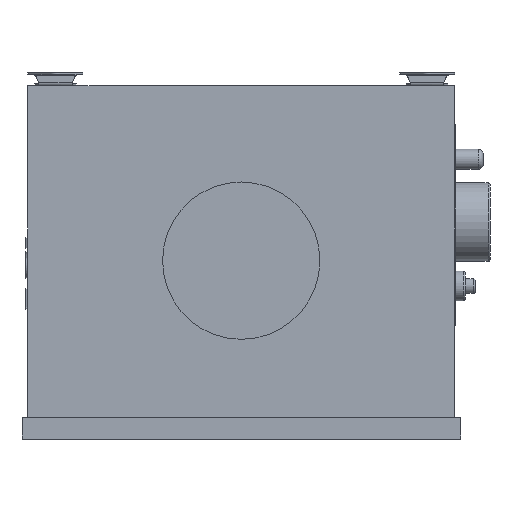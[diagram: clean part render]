
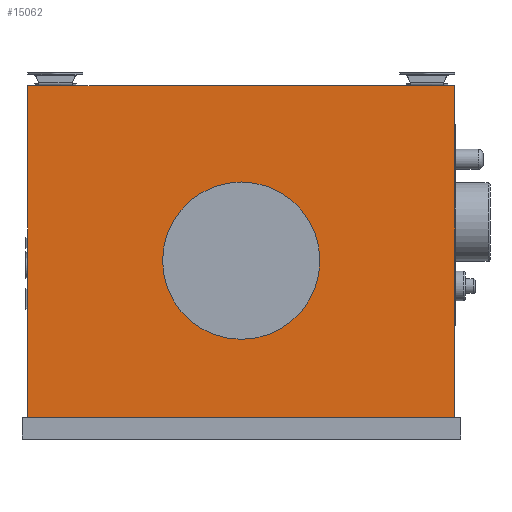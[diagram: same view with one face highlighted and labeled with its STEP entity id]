
A CAD part, front view. The second image highlights one B-rep face of the part: STEP entity #15062.
In plain terms, the highlighted planar face has unit normal (0, -1, 0).
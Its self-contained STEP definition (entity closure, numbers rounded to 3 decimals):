
#174=CIRCLE('',#15648,80.);
#320=FACE_BOUND('',#2347,.T.);
#1493=FACE_OUTER_BOUND('',#2346,.T.);
#2346=EDGE_LOOP('',(#13654,#13655,#13656,#13657));
#2347=EDGE_LOOP('',(#13658));
#4118=LINE('',#26717,#5396);
#4381=LINE('',#31497,#5659);
#4382=LINE('',#31499,#5660);
#4383=LINE('',#31500,#5661);
#5396=VECTOR('',#17162,10.);
#5659=VECTOR('',#18073,10.);
#5660=VECTOR('',#18076,10.);
#5661=VECTOR('',#18077,10.);
#6824=VERTEX_POINT('',#26713);
#6826=VERTEX_POINT('',#26716);
#7114=VERTEX_POINT('',#31468);
#7122=VERTEX_POINT('',#31493);
#7123=VERTEX_POINT('',#31495);
#8858=EDGE_CURVE('',#6826,#6824,#4118,.T.);
#9301=EDGE_CURVE('',#7114,#7114,#174,.T.);
#9314=EDGE_CURVE('',#7122,#7123,#4381,.T.);
#9315=EDGE_CURVE('',#7122,#6824,#4382,.T.);
#9316=EDGE_CURVE('',#6826,#7123,#4383,.T.);
#13654=ORIENTED_EDGE('',*,*,#9315,.F.);
#13655=ORIENTED_EDGE('',*,*,#9314,.T.);
#13656=ORIENTED_EDGE('',*,*,#9316,.F.);
#13657=ORIENTED_EDGE('',*,*,#8858,.T.);
#13658=ORIENTED_EDGE('',*,*,#9301,.T.);
#14044=PLANE('',#15660);
#15062=ADVANCED_FACE('',(#1493,#320),#14044,.T.);
#15648=AXIS2_PLACEMENT_3D('',#31469,#18042,#18043);
#15660=AXIS2_PLACEMENT_3D('',#31498,#18074,#18075);
#17162=DIRECTION('',(0.,0.,-1.));
#18042=DIRECTION('center_axis',(0.,1.,0.));
#18043=DIRECTION('ref_axis',(1.,0.,0.));
#18073=DIRECTION('',(0.,0.,1.));
#18074=DIRECTION('center_axis',(0.,-1.,0.));
#18075=DIRECTION('ref_axis',(1.,0.,0.));
#18076=DIRECTION('',(-1.,0.,0.));
#18077=DIRECTION('',(1.,0.,0.));
#26713=CARTESIAN_POINT('',(-305.802,-31.496,-157.75));
#26716=CARTESIAN_POINT('',(-305.802,-31.496,179.75));
#26717=CARTESIAN_POINT('',(-305.802,-31.496,-157.75));
#31468=CARTESIAN_POINT('',(-168.802,-31.496,1.75));
#31469=CARTESIAN_POINT('Origin',(-88.802,-31.496,1.75));
#31493=CARTESIAN_POINT('',(128.198,-31.496,-157.75));
#31495=CARTESIAN_POINT('',(128.198,-31.496,179.75));
#31497=CARTESIAN_POINT('',(128.198,-31.496,-157.75));
#31498=CARTESIAN_POINT('Origin',(-305.802,-31.496,-157.75));
#31499=CARTESIAN_POINT('',(128.198,-31.496,-157.75));
#31500=CARTESIAN_POINT('',(-305.802,-31.496,179.75));
